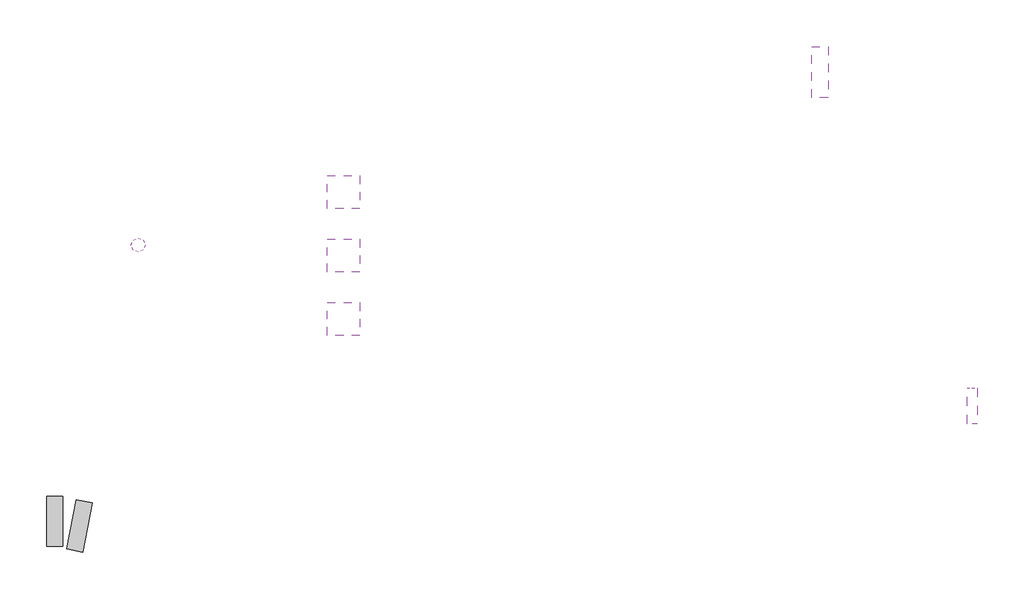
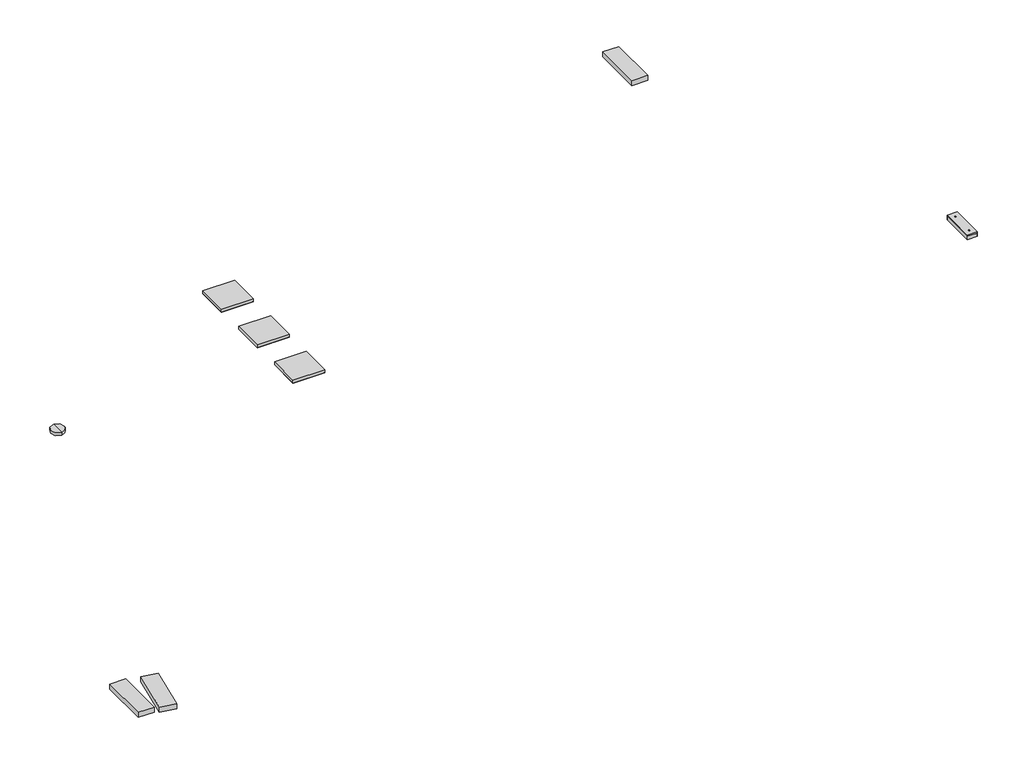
# One storey: 5 light fixtures, 3 proxies.
"""IFC4 building model written with IfcOpenShell, lengths in millimetres."""

import ifcopenshell
import ifcopenshell.guid

model = None  # the IFC model being written
_history = None  # IfcOwnerHistory: only IFC2X3 demands one
_inside = {}  # id of a spatial element -> (the spatial element, [elements in it])
_under = {}  # id of a project, library or spatial element -> (it, [spatial elements below it])
_declared = {}  # id of a project -> (the project, [libraries it declares])
_typed = {}  # id of a type object -> (the type object, [elements of that type])
_made_of = {}  # id of a material, layer set ... -> (it, [elements and type objects made of it])


def new_model(schema):
    """Start an empty IFC model of exactly this schema.

    Asked for "IFC4X3", IfcOpenShell would pick the latest addendum, in which some entities
    have other attributes; the version numbers below select the first issue.
    IFC2X3 requires an IfcOwnerHistory on every rooted entity: one is made here for all.
    """
    global model, _history
    if schema == "IFC4X3":
        model = ifcopenshell.file(schema_version=(4, 3, 0, 0))
    else:
        model = ifcopenshell.file(schema=schema)
    _inside.clear()
    _under.clear()
    _declared.clear()
    _typed.clear()
    _made_of.clear()
    _history = None
    if model.schema == "IFC2X3":
        org = make("IfcOrganization", Name="unknown")
        user = make(
            "IfcPersonAndOrganization",
            ThePerson=make("IfcPerson", FamilyName="unknown"),
            TheOrganization=org,
        )
        app = make(
            "IfcApplication",
            ApplicationDeveloper=org,
            Version="unknown",
            ApplicationFullName="unknown",
            ApplicationIdentifier="unknown",
        )
        _history = make(
            "IfcOwnerHistory",
            OwningUser=user,
            OwningApplication=app,
            ChangeAction="ADDED",
            CreationDate=0,
        )
    return model


def make(cls, **values):
    """One entity of the class cls with the attributes given. An attribute that is None is left unset."""
    return model.create_entity(
        cls, **{name: value for name, value in values.items() if value is not None}
    )


def rooted(cls, **values):
    """An entity with a GlobalId (a new one), such as an element, a storey or a relation."""
    return make(cls, GlobalId=ifcopenshell.guid.new(), OwnerHistory=_history, **values)


def si_unit(unit_type, name, prefix=None):
    """IfcSIUnit, for example si_unit("LENGTHUNIT", "METRE", prefix="MILLI")."""
    return make("IfcSIUnit", UnitType=unit_type, Prefix=prefix, Name=name)


def assignment(units):
    """IfcUnitAssignment: the units of a project."""
    return None if units is None else make("IfcUnitAssignment", Units=units)


def point(xyz):
    """IfcCartesianPoint."""
    return None if xyz is None else make("IfcCartesianPoint", Coordinates=xyz)


def direction(xyz):
    """IfcDirection."""
    return None if xyz is None else make("IfcDirection", DirectionRatios=xyz)


def frame(location, z_axis=None, x_axis=None):
    """IfcAxis2Placement3D, a coordinate frame: its origin and axes. An axis left out is left unset."""
    return make(
        "IfcAxis2Placement3D",
        Location=point(location),
        Axis=direction(z_axis),
        RefDirection=direction(x_axis),
    )


def frame_2d(location, x_axis=None):
    """IfcAxis2Placement2D, a coordinate frame in the plane: its origin and x axis."""
    return make(
        "IfcAxis2Placement2D", Location=point(location), RefDirection=direction(x_axis)
    )


def origin():
    """The frame at (0, 0, 0) with its axes left unset."""
    return frame((0.0, 0.0, 0.0))


def origin_with_axes():
    """The frame at (0, 0, 0) with the z axis (0, 0, 1) and the x axis (1, 0, 0) written out."""
    return frame((0.0, 0.0, 0.0), z_axis=(0.0, 0.0, 1.0), x_axis=(1.0, 0.0, 0.0))


def place(relative_to, where):
    """IfcLocalPlacement: puts the frame where relative to a parent placement (None: the world)."""
    return make(
        "IfcLocalPlacement", PlacementRelTo=relative_to, RelativePlacement=where
    )


def context(
    kind, dimensions, precision=None, world=None, true_north=None, identifier=None
):
    """IfcGeometricRepresentationContext, for example the 3D "Model" context."""
    return make(
        "IfcGeometricRepresentationContext",
        ContextIdentifier=identifier,
        ContextType=kind,
        CoordinateSpaceDimension=dimensions,
        Precision=precision,
        WorldCoordinateSystem=world,
        TrueNorth=true_north,
    )


def project(units=None, contexts=None):
    """IfcProject with its units and contexts."""
    return rooted(
        "IfcProject",
        Name="project",
        RepresentationContexts=contexts,
        UnitsInContext=assignment(units),
    )


def spatial(cls, under=None, at=None, **own):
    """A site, building, storey or space (cls), placed at a placement, below another one or the project."""
    s = rooted(cls, ObjectPlacement=at, **own)
    if under is not None:
        _under.setdefault(under.id(), (under, []))[1].append(s)
    return s


def polyline(points):
    """IfcPolyline through the points."""
    return make("IfcPolyline", Points=[point(p) for p in points])


def circle_curve(where, radius):
    """IfcCircle in the frame where."""
    return make("IfcCircle", Position=where, Radius=radius)


def ellipse_curve(where, semi_axis1, semi_axis2):
    """IfcEllipse in the frame where."""
    return make(
        "IfcEllipse", Position=where, SemiAxis1=semi_axis1, SemiAxis2=semi_axis2
    )


def trimmed(basis, trim1, trim2, sense, master):
    """IfcTrimmedCurve: the piece of a basis curve between two trims."""
    return make(
        "IfcTrimmedCurve",
        BasisCurve=basis,
        Trim1=trim1,
        Trim2=trim2,
        SenseAgreement=sense,
        MasterRepresentation=master,
    )


def segment(curve, same_sense, transition):
    """IfcCompositeCurveSegment."""
    return make(
        "IfcCompositeCurveSegment",
        Transition=transition,
        SameSense=same_sense,
        ParentCurve=curve,
    )


def composite_curve(segments, self_intersect=None):
    """IfcCompositeCurve: segments joined end to end."""
    return make("IfcCompositeCurve", Segments=segments, SelfIntersect=self_intersect)


def outline(outer, holes=None, kind="AREA"):
    """IfcArbitraryClosedProfileDef: a profile drawn as a closed curve; with holes, ...WithVoids."""
    if holes is None:
        return make("IfcArbitraryClosedProfileDef", ProfileType=kind, OuterCurve=outer)
    return make(
        "IfcArbitraryProfileDefWithVoids",
        ProfileType=kind,
        OuterCurve=outer,
        InnerCurves=holes,
    )


def extrude(swept, where, along, depth):
    """IfcExtrudedAreaSolid: the profile swept, set in the frame where, extruded along a direction by depth."""
    return make(
        "IfcExtrudedAreaSolid",
        SweptArea=swept,
        Position=where,
        ExtrudedDirection=direction(along),
        Depth=depth,
    )


def faces_of(points, faces, orient=None, outer=None):
    """IfcFace entities. A face is a list of loops; a loop is a list of indices into points, from 0.

    orient and outer hold one flag for each loop. By default every Orientation is true, the
    first loop of a face is its IfcFaceOuterBound and the others are IfcFaceBound.
    """
    made = []
    for i, loops in enumerate(faces):
        bounds = []
        for j, loop in enumerate(loops):
            is_outer = j == 0 if outer is None else outer[i][j]
            bounds.append(
                make(
                    "IfcFaceOuterBound" if is_outer else "IfcFaceBound",
                    Bound=make("IfcPolyLoop", Polygon=[points[k] for k in loop]),
                    Orientation=True if orient is None else orient[i][j],
                )
            )
        made.append(make("IfcFace", Bounds=bounds))
    return made


def faceted_brep(points, faces, orient=None, outer=None, voids=None):
    """IfcFacetedBrep: a solid bounded by flat faces; with voids (closed shells), ...WithVoids."""
    shared = [point(p) for p in points]
    hull = make("IfcClosedShell", CfsFaces=faces_of(shared, faces, orient, outer))
    if voids is None:
        return make("IfcFacetedBrep", Outer=hull)
    return make(
        "IfcFacetedBrepWithVoids",
        Outer=hull,
        Voids=[
            make(cls, CfsFaces=faces_of(shared, fs, o, b)) for cls, fs, o, b in voids
        ],
    )


def shape(context_of_items, identifier, shape_type, items):
    """IfcShapeRepresentation: the items that make up one representation, for example the "Body"."""
    return make(
        "IfcShapeRepresentation",
        ContextOfItems=context_of_items,
        RepresentationIdentifier=identifier,
        RepresentationType=shape_type,
        Items=items,
    )


def source(mapping_origin, context_of_items, identifier, shape_type, items):
    """IfcRepresentationMap: a shape defined once, which mapped items show again and again."""
    return make(
        "IfcRepresentationMap",
        MappingOrigin=mapping_origin,
        MappedRepresentation=shape(context_of_items, identifier, shape_type, items),
    )


def transform(
    local_origin,
    x_axis=None,
    y_axis=None,
    z_axis=None,
    scale=None,
    scale2=None,
    scale3=None,
    uniform=True,
):
    """IfcCartesianTransformationOperator3D, or its non-uniform kind. x_axis, y_axis, z_axis: its Axis1, 2, 3."""
    if uniform:
        return make(
            "IfcCartesianTransformationOperator3D",
            Axis1=direction(x_axis),
            Axis2=direction(y_axis),
            LocalOrigin=point(local_origin),
            Scale=scale,
            Axis3=direction(z_axis),
        )
    return make(
        "IfcCartesianTransformationOperator3DnonUniform",
        Axis1=direction(x_axis),
        Axis2=direction(y_axis),
        LocalOrigin=point(local_origin),
        Scale=scale,
        Axis3=direction(z_axis),
        Scale2=scale2,
        Scale3=scale3,
    )


def mapped(mapping_source, mapping_target):
    """IfcMappedItem: shows the shape of a source again, moved by a transform."""
    return make(
        "IfcMappedItem", MappingSource=mapping_source, MappingTarget=mapping_target
    )


def made_of(thing, what):
    """Note that an element or type object is made of a material, layer set ...; save() writes the relation."""
    if what is not None:
        _made_of.setdefault(what.id(), (what, []))[1].append(thing)
    return thing


def element(
    cls,
    number,
    at=None,
    inside=None,
    cuts=None,
    type_object=None,
    material=None,
    context=None,
    identifier="Body",
    shape_type=None,
    held_by="IfcProductDefinitionShape",
    body=None,
    shapes=None,
    **own,
):
    """One element of the class cls, such as IfcWall. Its Tag is "e" and its number.

    at: its placement. inside: the storey or other place that contains it. cuts: it is an
    opening in that element (IfcRelVoidsElement). A single representation is given by context,
    identifier, shape_type and body (its items); several are given by shapes. held_by: the class
    of the entity that holds the representations. save() writes the other relations.
    """
    e = rooted(cls, Tag="e%d" % number, ObjectPlacement=at, **own)
    if body is not None:
        shapes = [shape(context, identifier, shape_type, body)]
    if shapes is not None:
        e.Representation = make(held_by, Representations=shapes)
    if inside is not None:
        _inside.setdefault(inside.id(), (inside, []))[1].append(e)
    if cuts is not None:
        rooted(
            "IfcRelVoidsElement", RelatingBuildingElement=cuts, RelatedOpeningElement=e
        )
    if type_object is not None:
        _typed.setdefault(type_object.id(), (type_object, []))[1].append(e)
    return made_of(e, material)


def aggregate(whole, parts):
    """IfcRelAggregates: a whole, such as a stair, and the parts it consists of."""
    return rooted("IfcRelAggregates", RelatingObject=whole, RelatedObjects=parts)


def save(model, path):
    """Write the relations noted so far, then the file.

    IfcRelAggregates (storeys below a building ...), IfcRelContainedInSpatialStructure (elements
    in a storey), IfcRelDefinesByType, IfcRelAssociatesMaterial and IfcRelDeclares: one each for
    every whole, place, type object, material and project.
    """
    for whole, parts in _under.values():
        aggregate(whole, parts)
    for where, things in _inside.values():
        rooted(
            "IfcRelContainedInSpatialStructure",
            RelatedElements=things,
            RelatingStructure=where,
        )
    for kind, things in _typed.values():
        rooted("IfcRelDefinesByType", RelatedObjects=things, RelatingType=kind)
    for what, things in _made_of.values():
        rooted("IfcRelAssociatesMaterial", RelatedObjects=things, RelatingMaterial=what)
    for by, libraries in _declared.values():
        rooted("IfcRelDeclares", RelatingContext=by, RelatedDefinitions=libraries)
    model.write(path)


def plane_surface(at):
    """IfcPlane: the flat surface through the origin of the frame at, square to its z axis."""
    return make("IfcPlane", Position=at)


def cylinder_surface(at, radius):
    """IfcCylindricalSurface: all points at the distance radius from the z axis of the frame at."""
    return make("IfcCylindricalSurface", Position=at, Radius=radius)


def revolved_surface(curve, axis_point, axis_direction):
    """IfcSurfaceOfRevolution: the curve turned about the line through axis_point along axis_direction."""
    return make(
        "IfcSurfaceOfRevolution",
        SweptCurve=make("IfcArbitraryOpenProfileDef", ProfileType="CURVE", Curve=curve),
        AxisPosition=make("IfcAxis1Placement", Location=point(axis_point), Axis=direction(axis_direction)),
    )


def advanced_brep(points, edges, surfaces, faces):
    """IfcAdvancedBrep: a solid bounded by faces that lie on surfaces and meet in shared edges.

    An edge is (start, end): straight between two places in points (the first is 0);
    or (start, end, curve); or (start, end, curve, False) where it runs against its curve.
    A face is (place in surfaces, loops), or (place, loops, False) where it looks against
    its surface's normal. A loop lists edges by number (the first is 1), with a minus sign
    where the edge is run from its end to its start. The first loop is the outer one.
    """
    corners = [point(p) for p in points]
    vertices = [make("IfcVertexPoint", VertexGeometry=c) for c in corners]
    made = []
    for start, end, *more in edges:
        made.append(
            make(
                "IfcEdgeCurve",
                EdgeStart=vertices[start],
                EdgeEnd=vertices[end],
                EdgeGeometry=more[0] if more else make("IfcPolyline", Points=[corners[start], corners[end]]),
                SameSense=more[1] if len(more) > 1 else True,
            )
        )
    hull = []
    for where, loops, *sense in faces:
        bounds = []
        for j, loop in enumerate(loops):
            ring = [make("IfcOrientedEdge", EdgeElement=made[abs(k) - 1], Orientation=k > 0) for k in loop]
            bounds.append(
                make(
                    "IfcFaceOuterBound" if j == 0 else "IfcFaceBound",
                    Bound=make("IfcEdgeLoop", EdgeList=ring),
                    Orientation=True,
                )
            )
        hull.append(make("IfcAdvancedFace", Bounds=bounds, FaceSurface=surfaces[where], SameSense=sense[0] if sense else True))
    return make("IfcAdvancedBrep", Outer=make("IfcClosedShell", CfsFaces=hull))


def light_fixture_91a3bebd(model_context):
    return source(origin(), model_context, "Body", "SolidModel", [
        faceted_brep([(-280.0, 280.0, 80.0), (-280.0, -280.0, 80.0), (280.0, -280.0, 80.0), (280.0, 280.0, 80.0), (270.0, 270.0, 80.0), (270.0, -270.0, 80.0), (-270.0, -270.0, 80.0), (-270.0, 270.0, 80.0), (-300.0, 300.0, 60.0), (300.0, 300.0, 60.0), (300.0, -300.0, 60.0), (-300.0, -300.0, 60.0), (270.0, 270.0, 77.0), (-270.0, 270.0, 77.0), (-270.0, -270.0, 77.0), (270.0, -270.0, 77.0)], [[[0, 1, 2, 3], [4, 5, 6, 7]], [[8, 9, 10, 11]], [[1, 0, 8, 11]], [[2, 1, 11, 10]], [[3, 2, 10, 9]], [[0, 3, 9, 8]], [[12, 13, 14, 15]], [[12, 15, 5, 4]], [[15, 14, 6, 5]], [[14, 13, 7, 6]], [[13, 12, 4, 7]]]),
        extrude(outline(polyline([(-300.0, 300.0), (300.0, 300.0), (300.0, -300.0), (-300.0, -300.0), (-300.0, 300.0)])), origin_with_axes(), (0.0, 0.0, 1.0), 60.0),
    ])


def light_fixture_827c025e(model_context):
    return source(origin(), model_context, "Body", "SweptSolid", [
        extrude(outline(composite_curve([segment(polyline([(-10.0, 3.0), (-5.0, 3.0)]), True, "CONTINUOUS"), segment(trimmed(circle_curve(frame_2d((0.0, 3.0)), 5.0), [point((-5.0, 3.0))], [point((5.0, 3.0))], False, "CARTESIAN"), True, "CONTINUOUS"), segment(polyline([(5.0, 3.0), (10.0, 3.0), (10.0, 0.0), (3.0, 0.0)]), True, "CONTINUOUS"), segment(trimmed(circle_curve(frame_2d((0.0, 1.4671776)), 3.3395524), [point((3.0, 0.0))], [point((-3.0, 0.0))], True, "CARTESIAN"), True, "CONTINUOUS"), segment(polyline([(-3.0, 0.0), (-10.0, 0.0), (-10.0, 3.0)]), True, "CONTINUOUS")], self_intersect=False)), frame((-233.1421762, 0.0, 0.0), z_axis=(1.0, 0.0, 0.0), x_axis=(0.0, 1.0, 0.0)), (0.0, 0.0, 1.0), 15.4101384),
        extrude(outline(composite_curve([segment(polyline([(-10.0, 3.0), (-5.0, 3.0)]), True, "CONTINUOUS"), segment(trimmed(circle_curve(frame_2d((0.0, 3.0)), 5.0), [point((-5.0, 3.0))], [point((5.0, 3.0))], False, "CARTESIAN"), True, "CONTINUOUS"), segment(polyline([(5.0, 3.0), (10.0, 3.0), (10.0, 0.0), (3.0, 0.0)]), True, "CONTINUOUS"), segment(trimmed(circle_curve(frame_2d((0.0, 1.4671776)), 3.3395524), [point((3.0, 0.0))], [point((-3.0, 0.0))], True, "CARTESIAN"), True, "CONTINUOUS"), segment(polyline([(-3.0, 0.0), (-10.0, 0.0), (-10.0, 3.0)]), True, "CONTINUOUS")], self_intersect=False)), frame((217.7320377, 0.0, 0.0), z_axis=(1.0, 0.0, 0.0), x_axis=(0.0, 1.0, 0.0)), (0.0, 0.0, 1.0), 15.4101384),
        extrude(outline(composite_curve([segment(trimmed(circle_curve(frame_2d((328.5, 93.5)), 1.5), [point((328.5, 95.0))], [point((330.0, 93.5))], False, "CARTESIAN"), True, "CONTINUOUS"), segment(polyline([(330.0, 93.5), (330.0, -93.5)]), True, "CONTINUOUS"), segment(trimmed(circle_curve(frame_2d((328.5, -93.5)), 1.5), [point((330.0, -93.5))], [point((328.5, -95.0))], False, "CARTESIAN"), True, "CONTINUOUS"), segment(polyline([(328.5, -95.0), (-328.5, -95.0)]), True, "CONTINUOUS"), segment(trimmed(circle_curve(frame_2d((-328.5, -93.5)), 1.5), [point((-328.5, -95.0))], [point((-330.0, -93.5))], False, "CARTESIAN"), True, "CONTINUOUS"), segment(polyline([(-330.0, -93.5), (-330.0, 93.5)]), True, "CONTINUOUS"), segment(trimmed(circle_curve(frame_2d((-328.5, 93.5)), 1.5), [point((-330.0, 93.5))], [point((-328.5, 95.0))], False, "CARTESIAN"), True, "CONTINUOUS"), segment(polyline([(-328.5, 95.0), (328.5, 95.0)]), True, "CONTINUOUS")], self_intersect=False)), frame((0.0, 0.0, -85.0), z_axis=(0.0, 0.0, 1.0), x_axis=(1.0, 0.0, 0.0)), (0.0, 0.0, 1.0), 61.6947106),
        extrude(outline(composite_curve([segment(trimmed(circle_curve(frame_2d((329.2504542, 94.2504542)), 0.7495458), [point((329.2504542, 95.0))], [point((330.0, 94.2504542))], False, "CARTESIAN"), True, "CONTINUOUS"), segment(polyline([(330.0, 94.2504542), (330.0, -94.3331699)]), True, "CONTINUOUS"), segment(trimmed(circle_curve(frame_2d((329.3331699, -94.3331699)), 0.6668301), [point((330.0, -94.3331699))], [point((329.3331699, -95.0))], False, "CARTESIAN"), True, "CONTINUOUS"), segment(polyline([(329.3331699, -95.0), (-329.3035332, -95.0)]), True, "CONTINUOUS"), segment(trimmed(circle_curve(frame_2d((-329.3035332, -94.3035332)), 0.6964668), [point((-329.3035332, -95.0))], [point((-330.0, -94.3035332))], False, "CARTESIAN"), True, "CONTINUOUS"), segment(polyline([(-330.0, -94.3035332), (-330.0, 94.3113008)]), True, "CONTINUOUS"), segment(trimmed(circle_curve(frame_2d((-329.3113008, 94.3113008)), 0.6886992), [point((-330.0, 94.3113008))], [point((-329.3113008, 95.0))], False, "CARTESIAN"), True, "CONTINUOUS"), segment(polyline([(-329.3113008, 95.0), (329.2504542, 95.0)]), True, "CONTINUOUS")], self_intersect=False)), frame((0.0, 0.0, -23.3052894), z_axis=(0.0, 0.0, 1.0), x_axis=(1.0, 0.0, 0.0)), (0.0, 0.0, 1.0), 23.3052894),
        extrude(outline(polyline([(330.0, 5.7115124), (330.0, -5.8702471), (320.1820926, -5.8702471), (320.1820926, 5.7115124), (330.0, 5.7115124)])), frame((0.0, 0.0, -17.8855767), z_axis=(0.0, 0.0, 1.0), x_axis=(1.0, 0.0, 0.0)), (0.0, 0.0, 1.0), 11.6787364),
    ])


def light_fixture_b0669a9f(model_context):
    return source(origin(), model_context, "Body", "AdvancedBrep", [
        advanced_brep(
        [(0.0, -131.0, -52.0), (0.0, 131.0, -52.0), (0.0, 0.0, -82.0), (0.0, -131.0, 0.0), (0.0, 131.0, 0.0), (0.0, 0.0, 0.0)],
        [
            (0, 1, circle_curve(frame((0.0, 0.0, -52.0), z_axis=(0.0, 0.0, -1.0), x_axis=(0.0, 1.0, 0.0)), 131.0)),
            (1, 2, circle_curve(frame((0.0, 3.6788471, 202.9523676), z_axis=(-1.0, 0.0, 0.0), x_axis=(0.0, 1.0, 0.0)), 284.9761143)),
            (2, 0, circle_curve(frame((0.0, -3.6788471, 202.9523676), z_axis=(-1.0, 0.0, 0.0), x_axis=(0.0, -1.0, 0.0)), 284.9761143)),
            (1, 0, circle_curve(frame((0.0, 0.0, -52.0), z_axis=(0.0, 0.0, -1.0), x_axis=(0.0, 1.0, 0.0)), 131.0)),
            (3, 4, circle_curve(frame((0.0, 0.0, 0.0), z_axis=(0.0, 0.0, -1.0), x_axis=(0.0, 1.0, 0.0)), 131.0)),
            (4, 1),
            (0, 3),
            (4, 3, circle_curve(frame((0.0, 0.0, 0.0), z_axis=(0.0, 0.0, -1.0), x_axis=(0.0, 1.0, 0.0)), 131.0)),
            (5, 4),
            (3, 5),
        ],
        [
            revolved_surface(trimmed(ellipse_curve(frame((0.0, 3.6788471, 202.9523676), z_axis=(1.0, 0.0, 0.0), x_axis=(0.0, 1.0, 0.0)), 284.9761143, 284.9761143), [point((0.0, 0.0, -82.0))], [point((0.0, 131.0, -52.0))], True, "CARTESIAN"), (0.0, 0.0, 75.0), (0.0, 0.0, 1.0)),
            cylinder_surface(frame((0.0, 0.0, 75.0), z_axis=(0.0, 0.0, 1.0), x_axis=(0.0, 1.0, 0.0)), 131.0),
            plane_surface(frame((0.0, 0.0, 0.0), z_axis=(0.0, 0.0, 1.0), x_axis=(0.0, 1.0, 0.0))),
        ],
        [
            (0, [[1, 2, 3]]),
            (0, [[4, -3, -2]]),
            (1, [[5, 6, -1, 7]]),
            (1, [[8, -7, -4, -6]]),
            (2, [[9, -5, 10]]),
            (2, [[-10, -8, -9]]),
        ],
    ),
    ])


model = new_model("IFC4")

# Units and contexts
model_context = context("Model", 3, world=origin())
ifc_project = project(units=[si_unit("LENGTHUNIT", "METRE", prefix="MILLI")], contexts=[model_context])

# Site, building, storey
site = spatial("IfcSite", under=ifc_project)
building = spatial("IfcBuilding", under=site)
storey = spatial("IfcBuildingStorey", under=building, Name="Этаж 1", Elevation=0.0)

# Proxies
placement = place(None, origin())
element("IfcBuildingElementProxy", 1, Name="Generic Models", at=placement, inside=storey, context=model_context, shape_type="SweptSolid", body=[
    extrude(outline(polyline([(0.0, -921.7540044), (-300.0, -921.7540044), (-300.0, 0.0), (0.0, 0.0), (0.0, -921.7540044)])), origin_with_axes(), (0.0, 0.0, 1.0), 100.0),
])
element("IfcBuildingElementProxy", 2, Name="Generic Models", at=placement, inside=storey, context=model_context, shape_type="SweptSolid", body=[
    extrude(outline(polyline([(367.6566464, -1026.2014673), (73.1684913, -968.9587687), (249.0474469, -64.1399815), (543.5356019, -121.3826801), (367.6566464, -1026.2014673)])), origin_with_axes(), (0.0, 0.0, 1.0), 100.0),
])
element("IfcBuildingElementProxy", 3, Name="Generic Models", at=placement, inside=storey, context=model_context, shape_type="SweptSolid", body=[
    extrude(outline(polyline([(13754.3990809, 7325.4193227), (13754.3990809, 8268.000792), (14054.3990809, 8268.000792), (14054.3990809, 7325.4193227), (13754.3990809, 7325.4193227)])), frame((0.0, 0.0, 2650.0), z_axis=(0.0, 0.0, 1.0), x_axis=(1.0, 0.0, 0.0)), (0.0, 0.0, 1.0), 100.0),
])

# Light fixtures
light_fixture_shape = light_fixture_91a3bebd(model_context)
element("IfcLightFixture", 4, ObjectType="OPL S (открыто) : OPL S", at=placement, inside=storey, context=model_context, shape_type="MappedRepresentation", body=[
    mapped(light_fixture_shape, transform((5155.0, 3258.3333333, 2550.0), x_axis=(1.0, 0.0, 0.0), y_axis=(0.0, -1.0, 0.0), z_axis=(0.0, 0.0, -1.0))),
])
element("IfcLightFixture", 5, ObjectType="OPL S (открыто) : OPL S", at=placement, inside=storey, context=model_context, shape_type="MappedRepresentation", body=[
    mapped(light_fixture_shape, transform((5155.0, 4425.0, 2550.0), x_axis=(1.0, 0.0, 0.0), y_axis=(0.0, -1.0, 0.0), z_axis=(0.0, 0.0, -1.0))),
])
element("IfcLightFixture", 6, ObjectType="OPL S (открыто) : OPL S", at=placement, inside=storey, context=model_context, shape_type="MappedRepresentation", body=[
    mapped(light_fixture_shape, transform((5155.0, 5591.6666667, 2550.0), x_axis=(1.0, 0.0, 0.0), y_axis=(0.0, -1.0, 0.0), z_axis=(0.0, 0.0, -1.0))),
])
light_fixture_2_shape = light_fixture_827c025e(model_context)
element("IfcLightFixture", 7, ObjectType="ДПО46 Contur F : ДПО46-19-801", at=placement, inside=storey, context=model_context, shape_type="MappedRepresentation", body=[
    mapped(light_fixture_2_shape, transform((16703.4303464, 1660.0, 2306.4104946), x_axis=(0.0, 1.0, 0.0), y_axis=(-1.0, 0.0, 0.0), z_axis=(0.0, 0.0, 1.0))),
])
light_fixture_3_shape = light_fixture_b0669a9f(model_context)
element("IfcLightFixture", 8, ObjectType="LF_ОП_ТЛ : ДБО85_16_001_16Вт", at=placement, inside=storey, context=model_context, shape_type="MappedRepresentation", body=[
    mapped(light_fixture_3_shape, transform((1382.2016063, 4618.9320104, 1800.0), x_axis=(1.0, 0.0, 0.0), y_axis=(0.0, 1.0, 0.0), z_axis=(0.0, 0.0, 1.0))),
])

save(model, "model.ifc")
